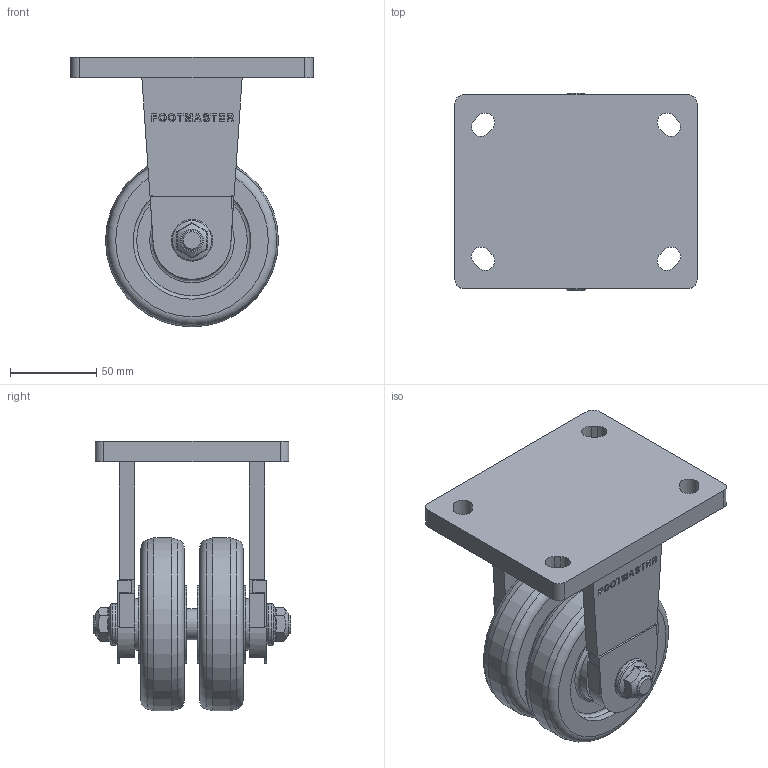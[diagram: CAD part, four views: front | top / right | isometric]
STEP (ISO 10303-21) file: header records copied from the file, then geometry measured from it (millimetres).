
FILE_DESCRIPTION((''),'2;1');
FILE_NAME('C:\Documents and Settings\Administrator\바탕 화면\3D STEP\GXTD-SERIES\GXTD-100\GXTD-100-RF.stp','2010-12-27T14:39:48',('Administrator'),(''),'Autodesk Inventor 2009','Autodesk Inventor 2009','');
FILE_SCHEMA(('AUTOMOTIVE_DESIGN { 1 0 10303 214 1 1 1 1 }'));
Length unit declared in the file: millimetre
Products named in the file (1): GXTD-100-RF
Bounding box: 140 x 114 x 156 mm (x, y, z)
Volume: 615523.7 mm3; surface area: 133823.6 mm2
Topology: 1 solids, 9 shells, 843 faces, 2219 edges, 1452 vertices
Faces by surface type: plane 692, cylinder 77, bspline 34, torus 24, cone 16
Full cylindrical faces by diameter (mm): 12 x4, 12.2 x2, 15 x6, 15.2 x4, 18 x1, 21 x2, 21.667 x8, 24 x2, 28.333 x8, 30 x2, 31 x2, 35 x8, 45 x4, 68 x4, 100 x2
Entity records: 27214 total; most frequent: CARTESIAN_POINT 6910, ORIENTED_EDGE 4176, DIRECTION 3870, EDGE_CURVE 2088, VECTOR 1814, LINE 1814, VERTEX_POINT 1442, EDGE_LOOP 1052
